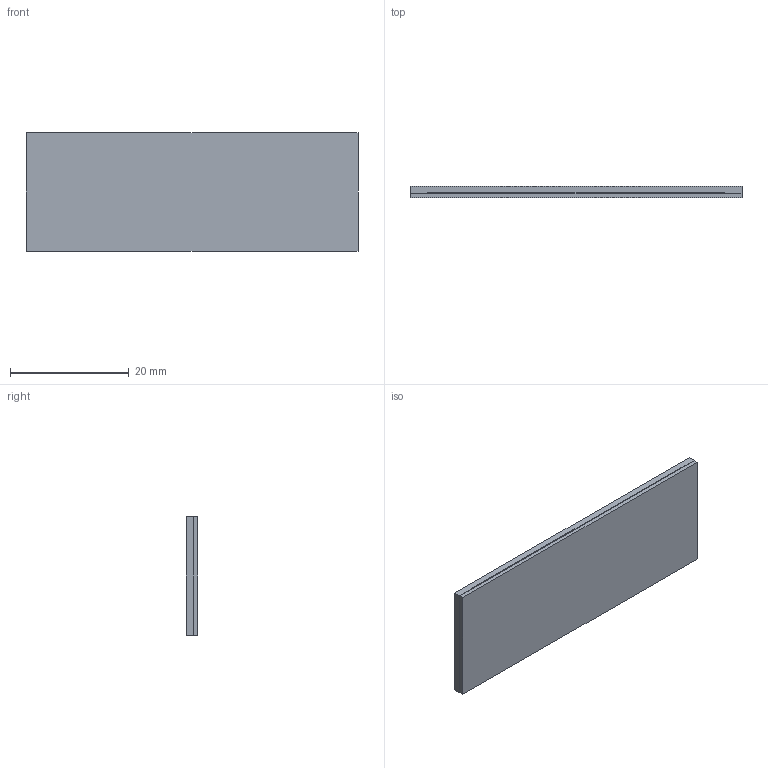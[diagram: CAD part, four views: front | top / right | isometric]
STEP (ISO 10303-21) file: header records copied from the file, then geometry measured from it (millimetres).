
FILE_DESCRIPTION(('Open CASCADE Model'),'2;1');
FILE_NAME('C05_REAR_DEBOSS - test section with cut boundaries', '2026-09-06T11:35:17',('Author'),('Open CASCADE'), 'Open CASCADE STEP processor 7.8','build123d','Unknown');
FILE_SCHEMA(('AUTOMOTIVE_DESIGN { 1 0 10303 214 1 1 1 1 }'));
Length unit declared in the file: millimetre
Products named in the file (5): C05_REAR_DEBOSS - test section with cut boundaries; rear_service_cover_PA12; rear_grip_skin_finegrain_cream_INSCRIBED; rear_grip_PSA_panel_0.13; SOLID
Assembly tree (4 placements, depth 3):
  C05_REAR_DEBOSS - test section with cut boundaries
    rear_service_cover_PA12
    rear_grip_skin_finegrain_cream_INSCRIBED
    rear_grip_PSA_panel_0.13
      SOLID
Bounding box: 56 x 1.9 x 20 mm (x, y, z)
Volume: 2090 mm3; surface area: 6884.3 mm2
Topology: 3 solids, 3 shells, 713 faces, 1986 edges, 1324 vertices
Faces by surface type: extrusion 419, plane 294
Entity records: 54429 total; most frequent: CARTESIAN_POINT 18457, DIRECTION 4824, VECTOR 4226, ORIENTED_EDGE 3972, PCURVE 3972, DEFINITIONAL_REPRESENTATION 3972, LINE 3807, B_SPLINE_CURVE_WITH_KNOTS 2570
